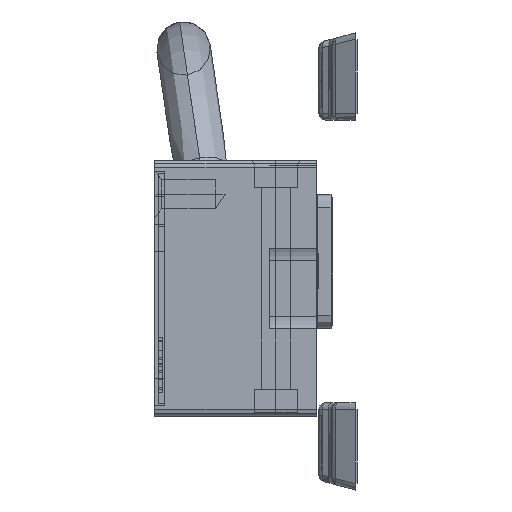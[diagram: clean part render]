
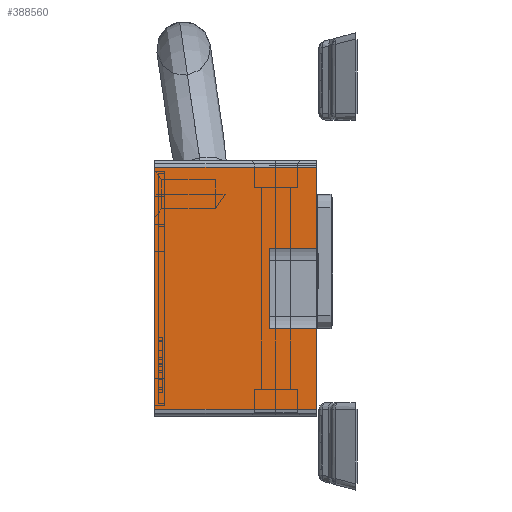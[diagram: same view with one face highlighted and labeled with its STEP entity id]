
A CAD part, left-side view. The second image highlights one B-rep face of the part: STEP entity #388560.
In plain terms, the highlighted planar face has unit normal (-1, 0, 0).
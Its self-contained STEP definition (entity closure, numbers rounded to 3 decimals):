
#382470=CARTESIAN_POINT('',(-46.,18.3,-12.));
#382480=VERTEX_POINT('',#382470);
#382510=CARTESIAN_POINT('',(-46.,0.3,-12.));
#382520=DIRECTION('',(0.,1.,0.));
#382530=VECTOR('',#382520,1.);
#382540=LINE('',#382510,#382530);
#382550=CARTESIAN_POINT('',(-46.,0.3,-12.));
#382560=VERTEX_POINT('',#382550);
#382570=EDGE_CURVE('',#382560,#382480,#382540,.T.);
#386230=CARTESIAN_POINT('',(-46.,18.3,0.)
);
#386240=VERTEX_POINT('',#386230);
#387650=CARTESIAN_POINT('',(-46.,0.3,0.)
);
#387660=VERTEX_POINT('',#387650);
#387690=CARTESIAN_POINT('',(-46.,0.3,0.)
);
#387700=DIRECTION('',(0.,1.,0.));
#387710=VECTOR('',#387700,1.);
#387720=LINE('',#387690,#387710);
#387730=CARTESIAN_POINT('',(-46.,6.328,0.))
;
#387740=VERTEX_POINT('',#387730);
#387750=EDGE_CURVE('',#387660,#387740,#387720,.T.);
#387990=CARTESIAN_POINT('',(-46.,12.272,0.))
;
#388000=VERTEX_POINT('',#387990);
#388030=CARTESIAN_POINT('',(-46.,12.272,0.))
;
#388040=DIRECTION('',(0.,1.,0.));
#388050=VECTOR('',#388040,1.);
#388060=LINE('',#388030,#388050);
#388070=EDGE_CURVE('',#388000,#386240,#388060,.T.);
#388120=CARTESIAN_POINT('',(-46.,17.8,-6.));
#388130=DIRECTION('',(-1.,0.,0.));
#388140=DIRECTION('',(0.,-1.,0.));
#388150=AXIS2_PLACEMENT_3D('',#388120,#388130,#388140);
#388160=PLANE('',#388150);
#388170=CARTESIAN_POINT('',(-46.,12.272,0.)
);
#388180=DIRECTION('',(0.,0.,-1.));
#388190=VECTOR('',#388180,1.);
#388200=LINE('',#388170,#388190);
#388210=CARTESIAN_POINT('',(-46.,12.272,-3.5));
#388220=VERTEX_POINT('',#388210);
#388230=EDGE_CURVE('',#388000,#388220,#388200,.T.);
#388240=ORIENTED_EDGE('',*,*,#388230,.F.);
#388250=CARTESIAN_POINT('',(-46.,12.272,-3.5));
#388260=DIRECTION('',(0.,-1.,0.));
#388270=VECTOR('',#388260,1.);
#388280=LINE('',#388250,#388270);
#388290=CARTESIAN_POINT('',(-46.,6.328,-3.5));
#388300=VERTEX_POINT('',#388290);
#388310=EDGE_CURVE('',#388220,#388300,#388280,.T.);
#388320=ORIENTED_EDGE('',*,*,#388310,.F.);
#388330=CARTESIAN_POINT('',(-46.,6.328,-3.5));
#388340=DIRECTION('',(0.,0.,1.));
#388350=VECTOR('',#388340,1.);
#388360=LINE('',#388330,#388350);
#388370=EDGE_CURVE('',#388300,#387740,#388360,.T.);
#388380=ORIENTED_EDGE('',*,*,#388370,.F.);
#388390=ORIENTED_EDGE('',*,*,#387750,.T.);
#388400=CARTESIAN_POINT('',(-46.,0.3,0.)
);
#388410=DIRECTION('',(0.,0.,-1.));
#388420=VECTOR('',#388410,1.);
#388430=LINE('',#388400,#388420);
#388440=EDGE_CURVE('',#387660,#382560,#388430,.T.);
#388450=ORIENTED_EDGE('',*,*,#388440,.F.);
#388460=ORIENTED_EDGE('',*,*,#382570,.F.);
#388470=CARTESIAN_POINT('',(-46.,18.3,-12.));
#388480=DIRECTION('',(0.,0.,1.));
#388490=VECTOR('',#388480,1.);
#388500=LINE('',#388470,#388490);
#388510=EDGE_CURVE('',#382480,#386240,#388500,.T.);
#388520=ORIENTED_EDGE('',*,*,#388510,.F.);
#388530=ORIENTED_EDGE('',*,*,#388070,.T.);
#388540=EDGE_LOOP('',(#388530,#388520,#388460,#388450,#388390,#388380,
#388320,#388240));
#388550=FACE_OUTER_BOUND('',#388540,.T.);
#388560=ADVANCED_FACE('',(#388550),#388160,.T.);
